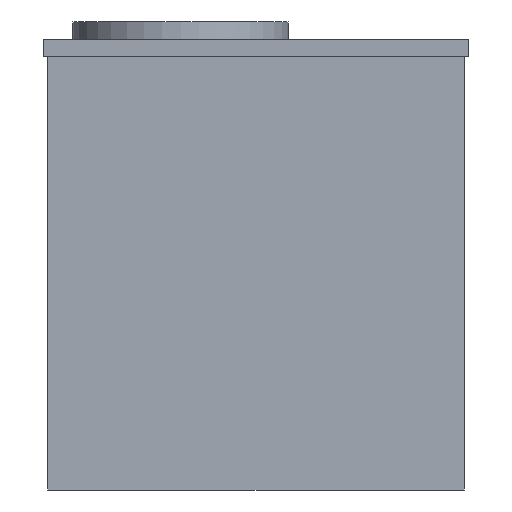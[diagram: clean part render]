
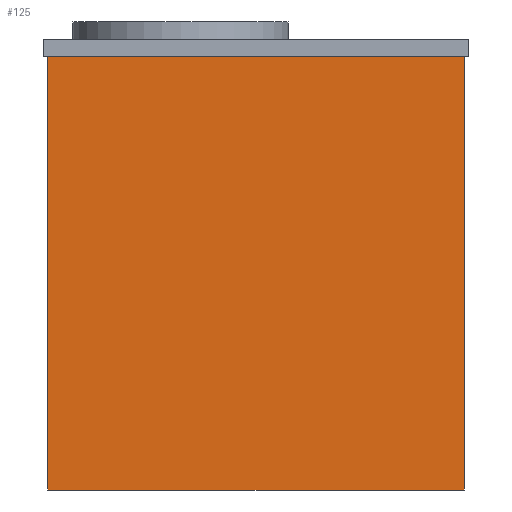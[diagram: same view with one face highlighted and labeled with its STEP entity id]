
A CAD part, front view. The second image highlights one B-rep face of the part: STEP entity #125.
In plain terms, the highlighted planar face has unit normal (0, -1, 0).
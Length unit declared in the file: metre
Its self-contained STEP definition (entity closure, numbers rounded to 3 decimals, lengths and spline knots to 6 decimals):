
#125=ADVANCED_FACE('0:42',(#298),#299,.T.);
#298=FACE_OUTER_BOUND('',#517,.T.);
#299=PLANE('',#518);
#517=EDGE_LOOP('',(#1311,#1312,#1313,#1314));
#518=AXIS2_PLACEMENT_3D('',#1315,#1316,#1317);
#1311=ORIENTED_EDGE('',*,*,#1614,.F.);
#1312=ORIENTED_EDGE('',*,*,#1615,.T.);
#1313=ORIENTED_EDGE('',*,*,#1616,.F.);
#1314=ORIENTED_EDGE('',*,*,#1598,.F.);
#1315=CARTESIAN_POINT('',(0.259,-1.262,0.0));
#1316=DIRECTION('',(0.0,-1.0,0.0));
#1317=DIRECTION('',(0.0,0.0,-1.0));
#1598=EDGE_CURVE('0:126',#1946,#1948,#1949,.F.);
#1614=EDGE_CURVE('0:117',#1974,#1946,#1975,.F.);
#1615=EDGE_CURVE('0:120',#1974,#1976,#1977,.T.);
#1616=EDGE_CURVE('0:123',#1948,#1976,#1978,.T.);
#1946=VERTEX_POINT('',#2716);
#1948=VERTEX_POINT('',#2719);
#1949=LINE('',#2720,#2721);
#1974=VERTEX_POINT('',#2757);
#1975=LINE('',#2758,#2759);
#1976=VERTEX_POINT('',#2760);
#1977=LINE('',#2761,#2762);
#1978=LINE('',#2763,#2764);
#2716=CARTESIAN_POINT('',(-0.458,-1.262,-0.394));
#2719=CARTESIAN_POINT('',(-0.458,-1.262,0.612));
#2720=CARTESIAN_POINT('',(-0.458,-1.262,0.0));
#2721=VECTOR('',#2936,1.0);
#2757=CARTESIAN_POINT('',(0.508,-1.262,-0.394));
#2758=CARTESIAN_POINT('',(0.1295,-1.262,-0.394));
#2759=VECTOR('',#2960,1.0);
#2760=CARTESIAN_POINT('',(0.508,-1.262,0.612));
#2761=CARTESIAN_POINT('',(0.508,-1.262,0.0));
#2762=VECTOR('',#2961,1.0);
#2763=CARTESIAN_POINT('',(0.1295,-1.262,0.612));
#2764=VECTOR('',#2962,1.0);
#2936=DIRECTION('',(-0.0,-0.0,-1.0));
#2960=DIRECTION('',(1.0,0.0,-0.0));
#2961=DIRECTION('',(0.0,0.0,1.0));
#2962=DIRECTION('',(1.0,0.0,-0.0));
